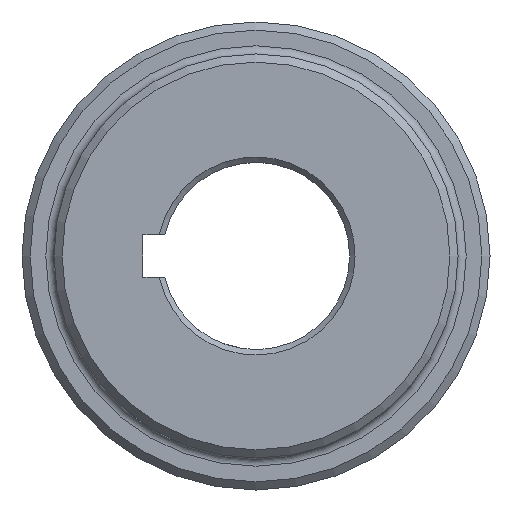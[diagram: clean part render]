
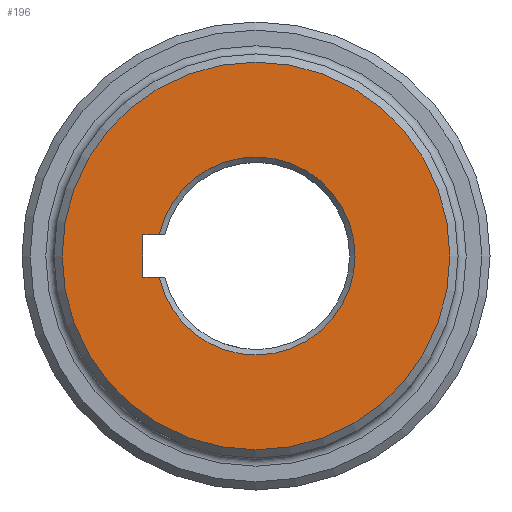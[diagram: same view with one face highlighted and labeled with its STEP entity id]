
A CAD part, left-side view. The second image highlights one B-rep face of the part: STEP entity #196.
In plain terms, the highlighted planar face has unit normal (-1, 0, 0).
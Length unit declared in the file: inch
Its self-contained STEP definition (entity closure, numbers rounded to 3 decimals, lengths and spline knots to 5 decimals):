
#17 = EDGE_LOOP ( 'NONE', ( #362 ) ) ;
#55 = VERTEX_POINT ( 'NONE', #122 ) ;
#69 = CARTESIAN_POINT ( 'NONE',  ( 0., 0.83125, -0.156 ) ) ;
#105 = LINE ( 'NONE', #1900, #1809 ) ;
#122 = CARTESIAN_POINT ( 'NONE',  ( 0., 0., -1.425 ) ) ;
#182 = CARTESIAN_POINT ( 'NONE',  ( 0., 0.83125, -0.156 ) ) ;
#196 = ADVANCED_FACE ( 'NONE', ( #1651, #346 ), #639, .F. ) ;
#200 = CARTESIAN_POINT ( 'NONE',  ( 0., 0., 0. ) ) ;
#305 = ORIENTED_EDGE ( 'NONE', *, *, #1604, .F. ) ;
#319 = DIRECTION ( 'NONE',  ( 0., 0., -1. ) ) ;
#342 = DIRECTION ( 'NONE',  ( 0., 1., 0. ) ) ;
#346 = FACE_BOUND ( 'NONE', #1520, .T. ) ;
#362 = ORIENTED_EDGE ( 'NONE', *, *, #1621, .T. ) ;
#404 = ORIENTED_EDGE ( 'NONE', *, *, #1798, .T. ) ;
#424 = CARTESIAN_POINT ( 'NONE',  ( 0., 0.71083, -0.156 ) ) ;
#457 = DIRECTION ( 'NONE',  ( 1., 0., 0. ) ) ;
#524 = CARTESIAN_POINT ( 'NONE',  ( 0., 0., 0. ) ) ;
#639 = PLANE ( 'NONE',  #1639 ) ;
#668 = DIRECTION ( 'NONE',  ( 0., 0., -1. ) ) ;
#687 = LINE ( 'NONE', #1727, #1979 ) ;
#732 = VERTEX_POINT ( 'NONE', #1707 ) ;
#744 = EDGE_CURVE ( 'NONE', #1259, #1046, #105, .T. ) ;
#774 = DIRECTION ( 'NONE',  ( -1., 0., 0. ) ) ;
#1038 = CIRCLE ( 'NONE', #2140, 1.425 ) ;
#1046 = VERTEX_POINT ( 'NONE', #424 ) ;
#1133 = AXIS2_PLACEMENT_3D ( 'NONE', #1416, #1376, #2051 ) ;
#1208 = VERTEX_POINT ( 'NONE', #1955 ) ;
#1218 = LINE ( 'NONE', #69, #2201 ) ;
#1259 = VERTEX_POINT ( 'NONE', #182 ) ;
#1376 = DIRECTION ( 'NONE',  ( 1., 0., 0. ) ) ;
#1416 = CARTESIAN_POINT ( 'NONE',  ( 0., 0., 0. ) ) ;
#1486 = DIRECTION ( 'NONE',  ( 0., 0., -1. ) ) ;
#1520 = EDGE_LOOP ( 'NONE', ( #305, #404, #2046, #1569 ) ) ;
#1569 = ORIENTED_EDGE ( 'NONE', *, *, #1935, .F. ) ;
#1604 = EDGE_CURVE ( 'NONE', #732, #1208, #687, .T. ) ;
#1621 = EDGE_CURVE ( 'NONE', #55, #55, #1038, .T. ) ;
#1639 = AXIS2_PLACEMENT_3D ( 'NONE', #524, #457, #668 ) ;
#1651 = FACE_OUTER_BOUND ( 'NONE', #17, .T. ) ;
#1707 = CARTESIAN_POINT ( 'NONE',  ( 0., 0.71083, 0.156 ) ) ;
#1727 = CARTESIAN_POINT ( 'NONE',  ( 0., 0., 0.156 ) ) ;
#1798 = EDGE_CURVE ( 'NONE', #732, #1046, #2223, .T. ) ;
#1809 = VECTOR ( 'NONE', #1960, 39.37008 ) ;
#1900 = CARTESIAN_POINT ( 'NONE',  ( 0., 0., -0.156 ) ) ;
#1935 = EDGE_CURVE ( 'NONE', #1208, #1259, #1218, .T. ) ;
#1955 = CARTESIAN_POINT ( 'NONE',  ( 0., 0.83125, 0.156 ) ) ;
#1960 = DIRECTION ( 'NONE',  ( 0., -1., 0. ) ) ;
#1979 = VECTOR ( 'NONE', #342, 39.37008 ) ;
#2046 = ORIENTED_EDGE ( 'NONE', *, *, #744, .F. ) ;
#2051 = DIRECTION ( 'NONE',  ( 0., 0., -1. ) ) ;
#2140 = AXIS2_PLACEMENT_3D ( 'NONE', #200, #774, #1486 ) ;
#2201 = VECTOR ( 'NONE', #319, 39.37008 ) ;
#2223 = CIRCLE ( 'NONE', #1133, 0.72775 ) ;
